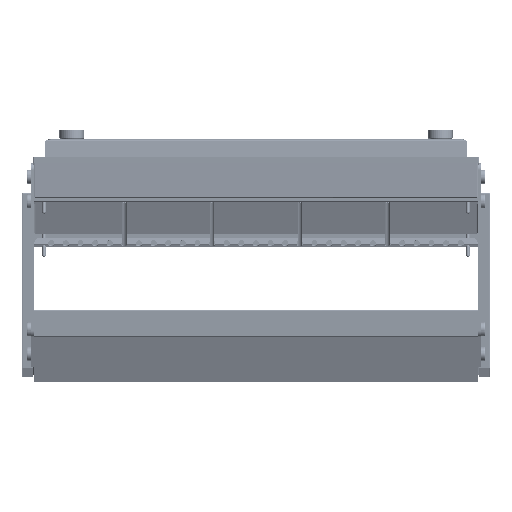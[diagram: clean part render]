
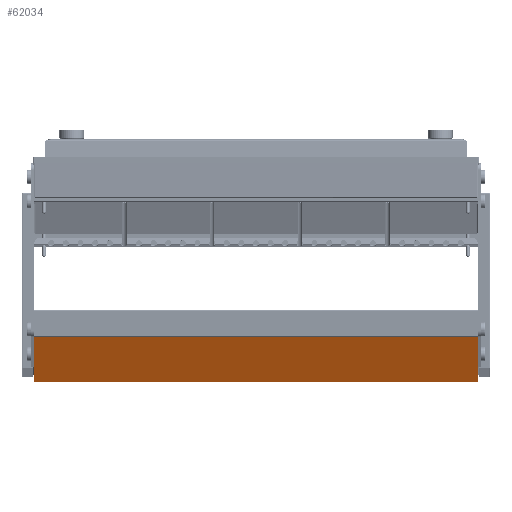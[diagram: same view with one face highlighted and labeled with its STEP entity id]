
A CAD part, front view. The second image highlights one B-rep face of the part: STEP entity #62034.
In plain terms, the highlighted planar face has unit normal (0, -0.122, -0.993).
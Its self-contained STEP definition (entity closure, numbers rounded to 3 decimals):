
#371 = PLANE ( 'NONE',  #71400 ) ;
#18092 = VECTOR ( 'NONE', #228938, 1000. ) ;
#24283 = VECTOR ( 'NONE', #116625, 1000. ) ;
#36851 = CARTESIAN_POINT ( 'NONE',  ( 378.8, -573.198, -284.422 ) ) ;
#39960 = EDGE_CURVE ( 'NONE', #181284, #134078, #247787, .T. ) ;
#61793 = LINE ( 'NONE', #36851, #261497 ) ;
#62034 = ADVANCED_FACE ( 'NONE', ( #203675 ), #371, .T. ) ;
#63792 = DIRECTION ( 'NONE',  ( 0., -0.122, -0.993 ) ) ;
#71400 = AXIS2_PLACEMENT_3D ( 'NONE', #289083, #63792, #156493 ) ;
#72146 = EDGE_CURVE ( 'NONE', #134078, #199001, #279091, .T. ) ;
#73786 = EDGE_CURVE ( 'NONE', #174317, #181284, #61793, .T. ) ;
#77348 = CARTESIAN_POINT ( 'NONE',  ( -378.8, 55.607, -361.63 ) ) ;
#97768 = LINE ( 'NONE', #186198, #18092 ) ;
#100050 = CARTESIAN_POINT ( 'NONE',  ( -378.8, 55.607, -361.63 ) ) ;
#114015 = ORIENTED_EDGE ( 'NONE', *, *, #73786, .T. ) ;
#116625 = DIRECTION ( 'NONE',  ( 0., 0.993, -0.122 ) ) ;
#134078 = VERTEX_POINT ( 'NONE', #100050 ) ;
#140185 = CARTESIAN_POINT ( 'NONE',  ( -378.8, -573.198, -284.422 ) ) ;
#156493 = DIRECTION ( 'NONE',  ( -1., 0., 0. ) ) ;
#167157 = DIRECTION ( 'NONE',  ( 1., 0., 0. ) ) ;
#168592 = ORIENTED_EDGE ( 'NONE', *, *, #39960, .T. ) ;
#170118 = CARTESIAN_POINT ( 'NONE',  ( -378.8, -573.198, -284.422 ) ) ;
#174317 = VERTEX_POINT ( 'NONE', #240520 ) ;
#181284 = VERTEX_POINT ( 'NONE', #170118 ) ;
#186198 = CARTESIAN_POINT ( 'NONE',  ( 378.8, 55.607, -361.63 ) ) ;
#187483 = CARTESIAN_POINT ( 'NONE',  ( 378.8, 55.607, -361.63 ) ) ;
#199001 = VERTEX_POINT ( 'NONE', #187483 ) ;
#203675 = FACE_OUTER_BOUND ( 'NONE', #279513, .T. ) ;
#214246 = VECTOR ( 'NONE', #167157, 1000. ) ;
#228938 = DIRECTION ( 'NONE',  ( 0., -0.993, 0.122 ) ) ;
#229441 = EDGE_CURVE ( 'NONE', #199001, #174317, #97768, .T. ) ;
#240520 = CARTESIAN_POINT ( 'NONE',  ( 378.8, -573.198, -284.422 ) ) ;
#247787 = LINE ( 'NONE', #140185, #24283 ) ;
#251263 = ORIENTED_EDGE ( 'NONE', *, *, #229441, .T. ) ;
#254742 = ORIENTED_EDGE ( 'NONE', *, *, #72146, .T. ) ;
#257796 = DIRECTION ( 'NONE',  ( -1., 0., 0. ) ) ;
#261497 = VECTOR ( 'NONE', #257796, 1000. ) ;
#279091 = LINE ( 'NONE', #77348, #214246 ) ;
#279513 = EDGE_LOOP ( 'NONE', ( #114015, #168592, #254742, #251263 ) ) ;
#289083 = CARTESIAN_POINT ( 'NONE',  ( -380., -574.128, -284.308 ) ) ;
